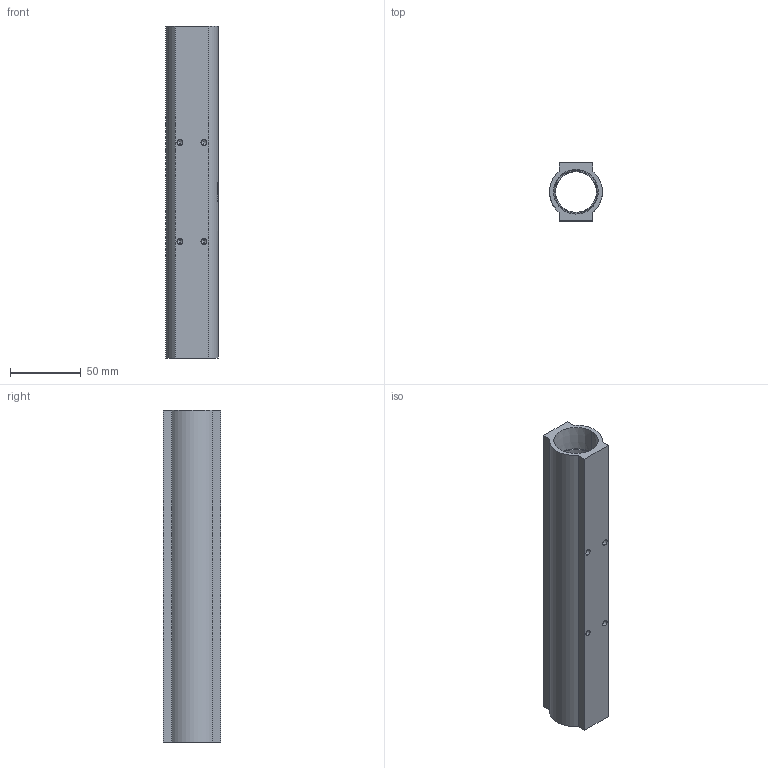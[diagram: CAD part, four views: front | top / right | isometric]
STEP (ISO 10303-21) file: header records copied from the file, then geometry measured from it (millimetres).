
FILE_DESCRIPTION (( 'STEP AP214' ), '1' );
FILE_NAME ('BWM6616R.STEP', '2022-03-15T05:25:18', ( '' ), ( '' ), 'SwSTEP 2.0', 'SolidWorks 2020', '' );
FILE_SCHEMA (( 'AUTOMOTIVE_DESIGN' ));
Length unit declared in the file: millimetre
Products named in the file (1): BWM6616R
Bounding box: 37.44 x 41 x 235 mm (x, y, z)
Volume: 127981.1 mm3; surface area: 55240.2 mm2
Topology: 1 solids, 1 shells, 206 faces, 550 edges, 360 vertices
Faces by surface type: plane 97, bspline 44, cylinder 41, cone 24
Entity records: 11290 total; most frequent: CARTESIAN_POINT 4807, ORIENTED_EDGE 1084, DIRECTION 718, EDGE_CURVE 542, VERTEX_POINT 360, LINE 268, VECTOR 268, EDGE_LOOP 242
